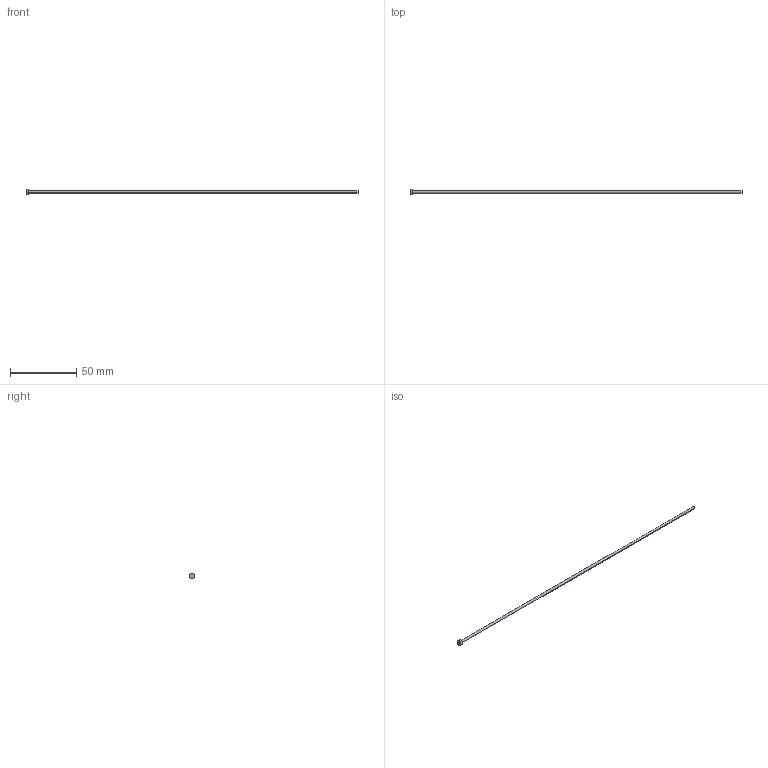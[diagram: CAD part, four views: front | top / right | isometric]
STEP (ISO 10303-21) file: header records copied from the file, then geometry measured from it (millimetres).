
FILE_DESCRIPTION (( 'STEP AP214' ), '1' );
FILE_NAME ('A-2x250.STEP', '2020-05-28T17:24:47', ( 'August' ), ( '' ), 'SwSTEP 2.0', 'SolidWorks 2018', '' );
FILE_SCHEMA (( 'AUTOMOTIVE_DESIGN' ));
Length unit declared in the file: millimetre
Products named in the file (1): A-2x250
Bounding box: 250 x 4 x 4 mm (x, y, z)
Volume: 804.3 mm3; surface area: 1608 mm2
Topology: 1 solids, 1 shells, 9 faces, 16 edges, 10 vertices
Faces by surface type: cylinder 4, plane 3, torus 2
Entity records: 260 total; most frequent: DIRECTION 48, CARTESIAN_POINT 36, ORIENTED_EDGE 32, AXIS2_PLACEMENT_3D 22, EDGE_CURVE 16, CIRCLE 12, EDGE_LOOP 10, VERTEX_POINT 10
